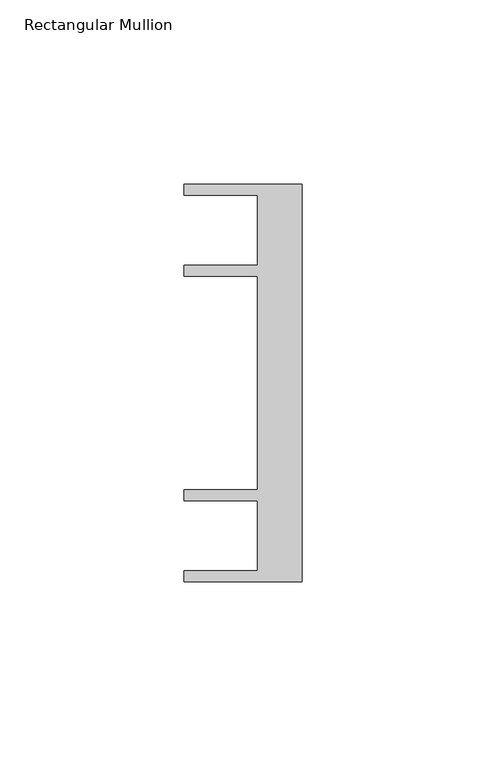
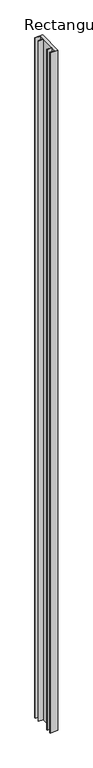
"""IFC4 building model written with IfcOpenShell, lengths in millimetres: member geometry, Rectangular Mullion : 22_IM_VNS_54_MAS."""

from ifc_helpers import new_model, si_unit, frame, origin, place, context, project, spatial, polyline, outline, extrude, source, transform, mapped, element, save


def rectangular_mullion_1f58b8ce(model_context):
    return source(origin(), model_context, "Body", "SweptSolid", [
        extrude(outline(polyline([(-32.0, 54.0), (0.0, 54.0), (0.0, -54.0), (-32.0, -54.0), (-32.0, -51.0), (-12.0, -51.0), (-12.0, -32.0), (-32.0, -32.0), (-32.0, -29.0), (-12.0, -29.0), (-12.0, 29.0), (-32.0, 29.0), (-32.0, 32.0), (-12.0, 32.0), (-12.0, 51.0), (-32.0, 51.0), (-32.0, 54.0)])), frame((0.0, 0.0, -2942.0), z_axis=(0.0, 0.0, 1.0), x_axis=(1.0, 0.0, 0.0)), (0.0, 0.0, 1.0), 2942.0),
    ])


if __name__ == "__main__":
    model = new_model("IFC4")
    model_context = context("Model", 3, world=origin())
    ifc_project = project(units=[si_unit("LENGTHUNIT", "METRE", prefix="MILLI")], contexts=[model_context])
    site = spatial("IfcSite", under=ifc_project)
    building = spatial("IfcBuilding", under=site)
    placement = place(None, origin())
    rectangular_mullion_shape = rectangular_mullion_1f58b8ce(model_context)
    element("IfcMember", 1, ObjectType="Rectangular Mullion : 22_IM_VNS_54_MAS", at=placement, inside=building, context=model_context, shape_type="MappedRepresentation", body=[
        mapped(rectangular_mullion_shape, transform((0.0, 0.0, 0.0), x_axis=(1.0, 0.0, 0.0), y_axis=(0.0, 1.0, 0.0), z_axis=(0.0, 0.0, 1.0))),
    ])
    save(model, "model.ifc")
